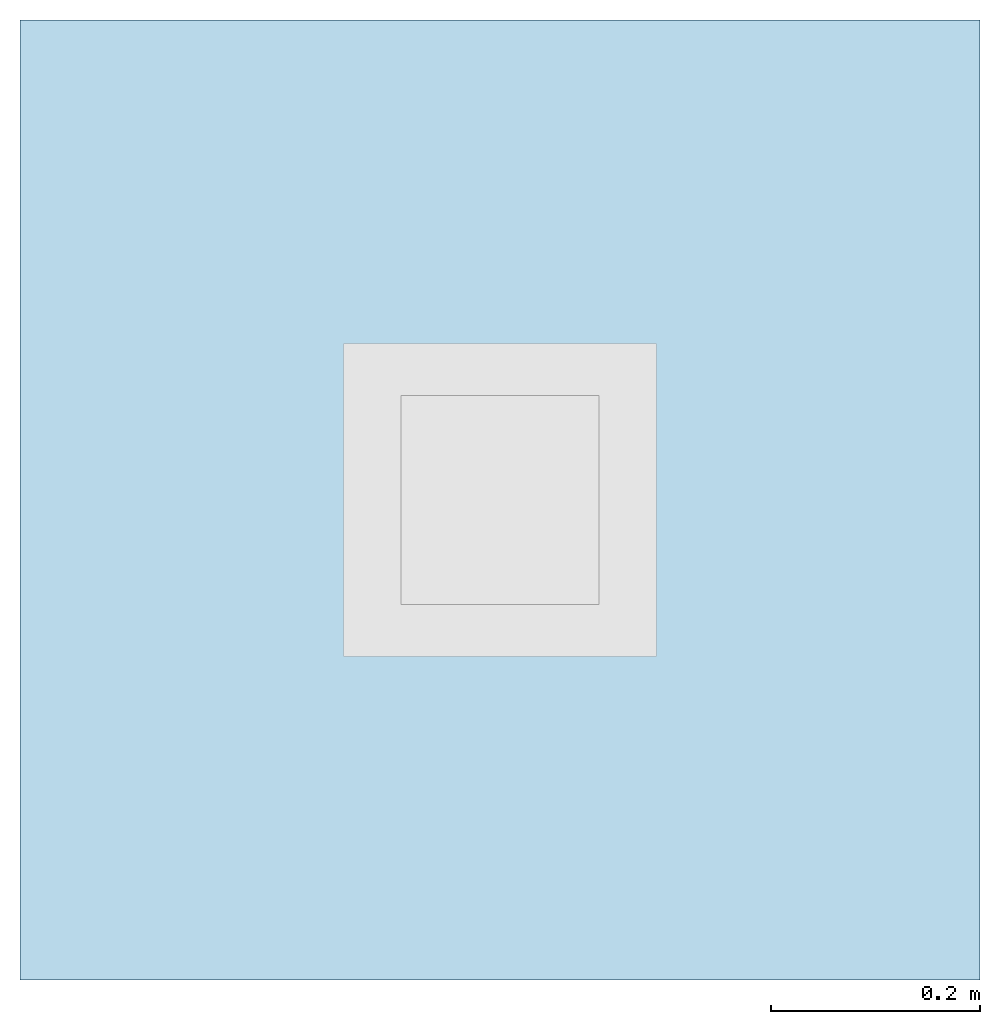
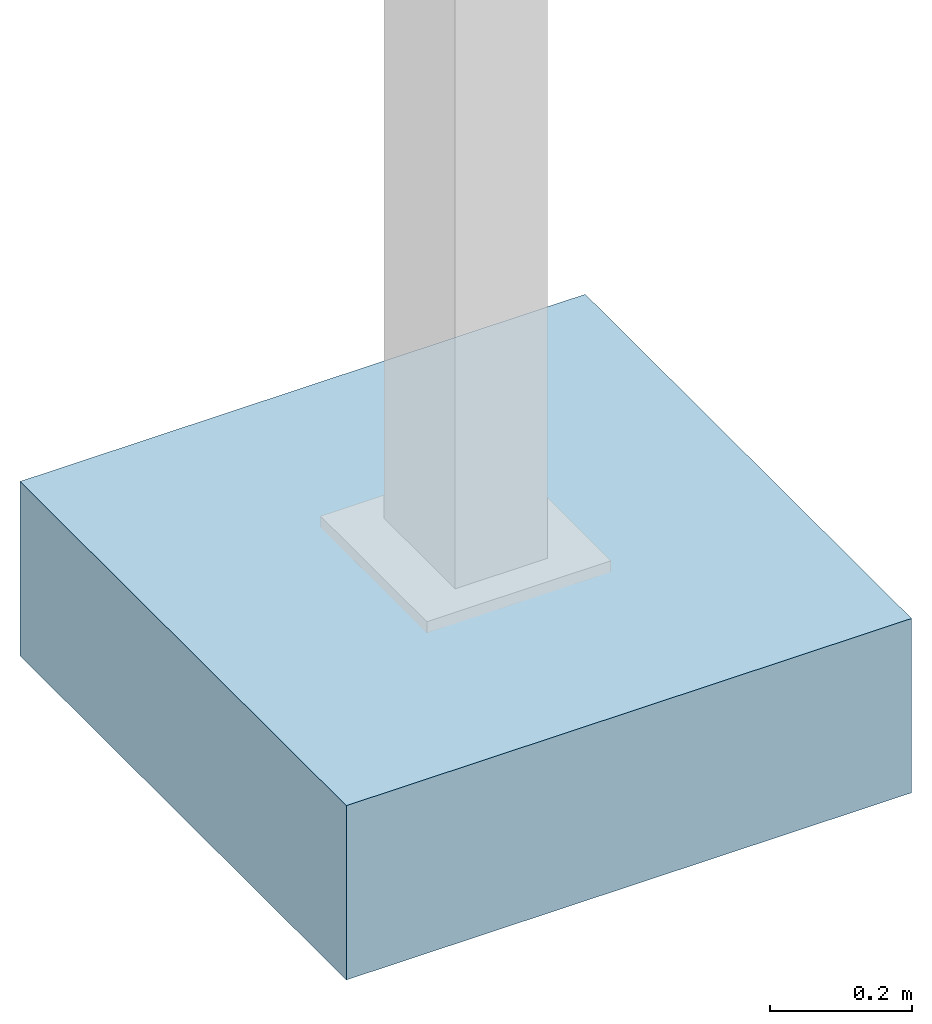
# One storey, part 1 of 2: 1 slab.
"""IFC4 building model written with IfcOpenShell, lengths in metres."""

from ifc_helpers import new_model, entity, si_unit, converted_unit, direction, frame, origin, origin_2d_with_axis, place, context, subcontext, project, spatial, rectangle, extrude, material, type_object, element, save


model = new_model("IFC4")

# Units and contexts
model_context = context("Model", 3, precision=1e-05, world=origin(), true_north=direction((6.123031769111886e-17, 1.0)))
body_context = subcontext(model_context, "Body", "Model", "MODEL_VIEW")
ifc_project = project(units=[si_unit("LENGTHUNIT", "METRE"), converted_unit("PLANEANGLEUNIT", "DEGREE", entity("IfcPlaneAngleMeasure", 0.017453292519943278), si_unit("PLANEANGLEUNIT", "RADIAN"), dimensions=[0, 0, 0, 0, 0, 0, 0]), si_unit("AREAUNIT", "SQUARE_METRE")], contexts=[model_context])

# Site, building, storey
site_placement = place(None, origin())
site = spatial("IfcSite", under=ifc_project, at=site_placement, Name="Default", CompositionType="ELEMENT")
building_placement = place(site_placement, origin())
building = spatial("IfcBuilding", under=site, at=building_placement, CompositionType="ELEMENT")
storey_placement = place(building_placement, origin())
storey = spatial("IfcBuildingStorey", under=building, at=storey_placement, Name="DB_Bezugshoehe_max_Bahnsteigkante", CompositionType="ELEMENT", Elevation=0.0)

# Slab
ifc_material = material(Name="DB_Ortbeton", Category="DB_Beton")
slab_type = type_object("IfcSlabType", Name="DB_Entwerter_Fundament:DB_Entwerter_Fundament", PredefinedType="BASESLAB", material=ifc_material)
slab_placement = place(storey_placement, origin())
element("IfcSlab", 1, at=slab_placement, inside=storey, type_object=slab_type, Name="DB_Entwerter_Fundament:DB_Entwerter_Fundament", ObjectType="DB_Entwerter_Fundament:DB_Entwerter_Fundament", PredefinedType="BASESLAB", context=body_context, shape_type="SweptSolid", body=[
    extrude(rectangle(XDim=0.9199999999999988, YDim=0.9200000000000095, at=origin_2d_with_axis()), frame((0.0, 0.0, -0.29999999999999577), z_axis=(0.0, 0.0, 1.0), x_axis=(-1.0, 0.0, 0.0)), (0.0, 0.0, 1.0), 0.29999999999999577),
])

save(model, "model.ifc")
